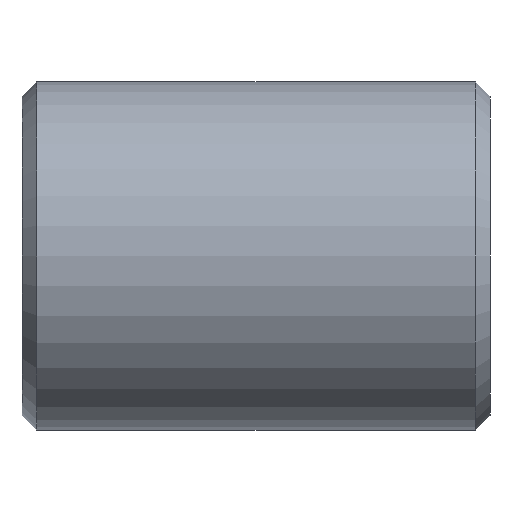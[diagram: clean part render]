
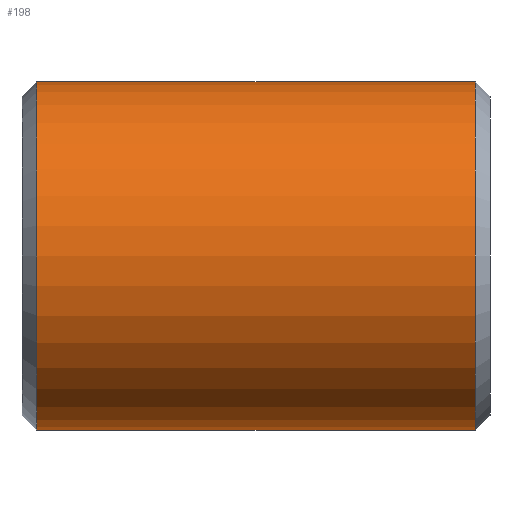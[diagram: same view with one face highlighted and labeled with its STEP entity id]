
A CAD part, front view. The second image highlights one B-rep face of the part: STEP entity #198.
In plain terms, the highlighted cylindrical face has radius 59.5 mm (diameter 119 mm), a partial arc.
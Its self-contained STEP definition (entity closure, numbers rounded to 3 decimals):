
#3 = CARTESIAN_POINT ( 'NONE',  ( 155., 0., 59.5 ) ) ;
#5 = DIRECTION ( 'NONE',  ( -1., 0., 0. ) ) ;
#6 = CIRCLE ( 'NONE', #205, 59.5 ) ;
#13 = CARTESIAN_POINT ( 'NONE',  ( 0., 0., 0. ) ) ;
#17 = CARTESIAN_POINT ( 'NONE',  ( 0., 0., -59.5 ) ) ;
#20 = DIRECTION ( 'NONE',  ( -1., 0., 0. ) ) ;
#50 = CARTESIAN_POINT ( 'NONE',  ( 0., 0., 59.5 ) ) ;
#51 = EDGE_CURVE ( 'NONE', #187, #115, #324, .T. ) ;
#105 = VERTEX_POINT ( 'NONE', #211 ) ;
#115 = VERTEX_POINT ( 'NONE', #3 ) ;
#122 = ORIENTED_EDGE ( 'NONE', *, *, #261, .F. ) ;
#129 = CARTESIAN_POINT ( 'NONE',  ( 5., 0., 59.5 ) ) ;
#136 = EDGE_CURVE ( 'NONE', #309, #105, #6, .T. ) ;
#139 = FACE_OUTER_BOUND ( 'NONE', #157, .T. ) ;
#142 = DIRECTION ( 'NONE',  ( 1., 0., 0. ) ) ;
#156 = DIRECTION ( 'NONE',  ( -1., 0., 0. ) ) ;
#157 = EDGE_LOOP ( 'NONE', ( #122, #436, #315, #226 ) ) ;
#184 = DIRECTION ( 'NONE',  ( -1., 0., 0. ) ) ;
#187 = VERTEX_POINT ( 'NONE', #219 ) ;
#195 = EDGE_CURVE ( 'NONE', #115, #309, #407, .T. ) ;
#198 = ADVANCED_FACE ( 'NONE', ( #139 ), #338, .T. ) ;
#205 = AXIS2_PLACEMENT_3D ( 'NONE', #209, #142, #413 ) ;
#209 = CARTESIAN_POINT ( 'NONE',  ( 5., 0., 0. ) ) ;
#211 = CARTESIAN_POINT ( 'NONE',  ( 5., 0., -59.5 ) ) ;
#219 = CARTESIAN_POINT ( 'NONE',  ( 155., 0., -59.5 ) ) ;
#226 = ORIENTED_EDGE ( 'NONE', *, *, #136, .T. ) ;
#233 = LINE ( 'NONE', #17, #258 ) ;
#248 = AXIS2_PLACEMENT_3D ( 'NONE', #13, #156, #429 ) ;
#251 = CARTESIAN_POINT ( 'NONE',  ( 155., 0., 0. ) ) ;
#258 = VECTOR ( 'NONE', #5, 1000. ) ;
#261 = EDGE_CURVE ( 'NONE', #187, #105, #233, .T. ) ;
#293 = VECTOR ( 'NONE', #20, 1000. ) ;
#309 = VERTEX_POINT ( 'NONE', #129 ) ;
#315 = ORIENTED_EDGE ( 'NONE', *, *, #195, .T. ) ;
#324 = CIRCLE ( 'NONE', #446, 59.5 ) ;
#338 = CYLINDRICAL_SURFACE ( 'NONE', #248, 59.5 ) ;
#387 = DIRECTION ( 'NONE',  ( 0., 0., 1. ) ) ;
#407 = LINE ( 'NONE', #50, #293 ) ;
#413 = DIRECTION ( 'NONE',  ( 0., 0., -1. ) ) ;
#429 = DIRECTION ( 'NONE',  ( 0., 0., 1. ) ) ;
#436 = ORIENTED_EDGE ( 'NONE', *, *, #51, .T. ) ;
#446 = AXIS2_PLACEMENT_3D ( 'NONE', #251, #184, #387 ) ;
